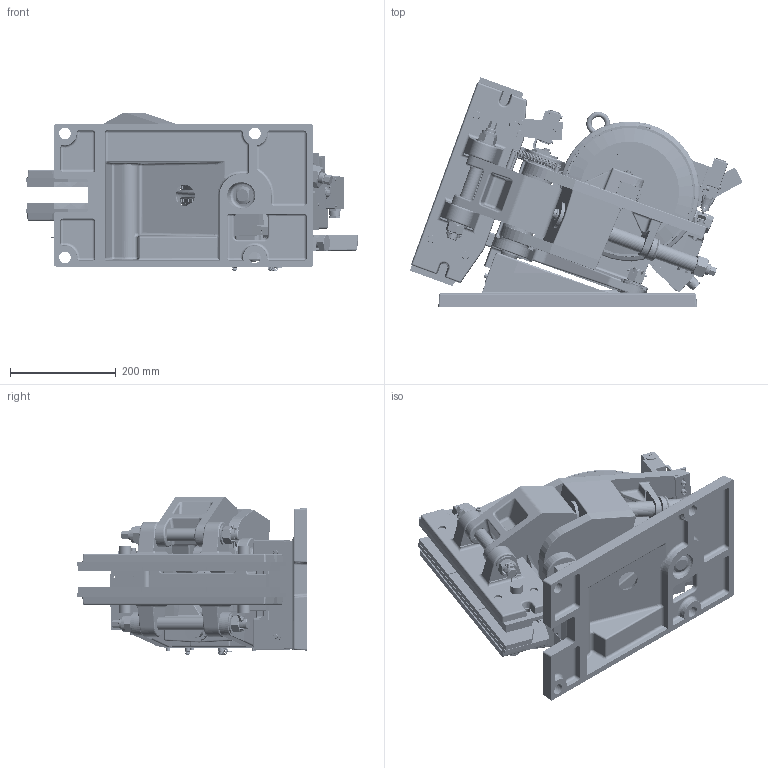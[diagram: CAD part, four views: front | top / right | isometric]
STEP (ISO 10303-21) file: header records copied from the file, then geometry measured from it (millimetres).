
FILE_DESCRIPTION((''),'2;1');
FILE_NAME('DA_305_FEM_SW0001','2026-09-09T17:01:20',('mapm'),(''),'CREO PARAMETRIC BY PTC INC, 2025102','CREO PARAMETRIC BY PTC INC, 2025102','');
FILE_SCHEMA(('CONFIG_CONTROL_DESIGN','SHAPE_APPEARANCE_LAYERS_GROUPS'));
Products named in the file (1): DA_305_FEM_SW0001
Bounding box: 629.32 x 434.85 x 300.96 mm (x, y, z)
Volume: 14380135.5 mm3; surface area: 2102920 mm2
Topology: 5 solids, 7 shells, 6033 faces, 15276 edges, 9656 vertices
Faces by surface type: plane 3119, cylinder 1851, cone 353, bspline 323, torus 230, sphere 106, extrusion 48, revolution 3
Entity records: 311751 total; most frequent: CARTESIAN_POINT 79630, ORIENTED_EDGE 30216, DIRECTION 29587, PRESENTATION_STYLE_ASSIGNMENT 21196, STYLED_ITEM 15164, CURVE_STYLE 15159, EDGE_CURVE 15108, AXIS2_PLACEMENT_3D 10701
